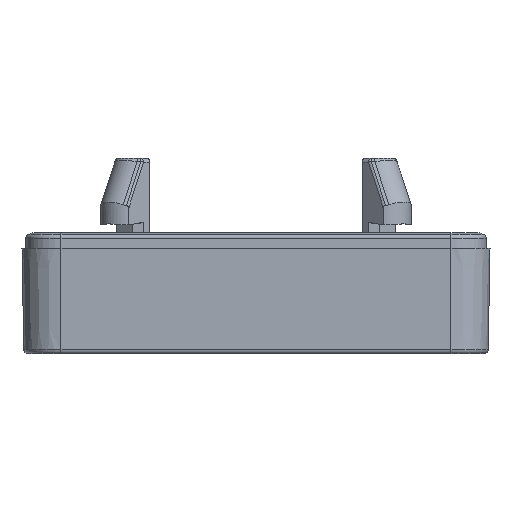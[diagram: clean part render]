
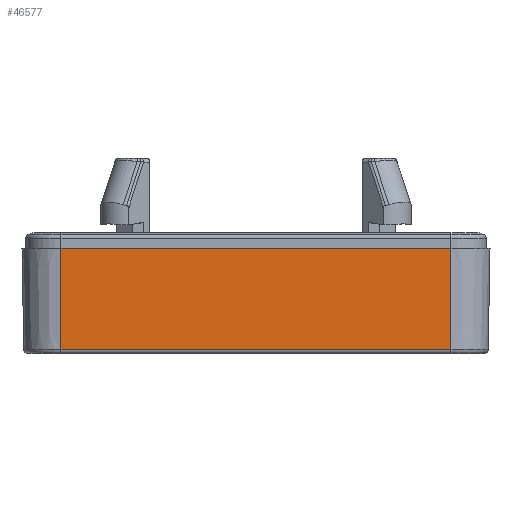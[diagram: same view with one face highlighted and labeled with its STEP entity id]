
A CAD part, left-side view. The second image highlights one B-rep face of the part: STEP entity #46577.
In plain terms, the highlighted planar face has unit normal (-1, 0, -0.018).
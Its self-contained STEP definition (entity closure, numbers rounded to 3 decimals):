
#495=PLANE('',#49752);
#4578=FACE_OUTER_BOUND('',#7430,.T.);
#7430=EDGE_LOOP('',(#36453,#36454,#36455,#36456));
#12465=LINE('',#77349,#16802);
#12466=LINE('',#77351,#16803);
#12467=LINE('',#77353,#16804);
#12468=LINE('',#77354,#16805);
#16802=VECTOR('',#56571,10.);
#16803=VECTOR('',#56572,10.);
#16804=VECTOR('',#56573,10.);
#16805=VECTOR('',#56574,10.);
#21757=VERTEX_POINT('',#77347);
#21758=VERTEX_POINT('',#77348);
#21759=VERTEX_POINT('',#77350);
#21760=VERTEX_POINT('',#77352);
#27144=EDGE_CURVE('',#21757,#21758,#12465,.T.);
#27145=EDGE_CURVE('',#21759,#21757,#12466,.T.);
#27146=EDGE_CURVE('',#21760,#21759,#12467,.T.);
#27147=EDGE_CURVE('',#21760,#21758,#12468,.T.);
#36453=ORIENTED_EDGE('',*,*,#27144,.F.);
#36454=ORIENTED_EDGE('',*,*,#27145,.F.);
#36455=ORIENTED_EDGE('',*,*,#27146,.F.);
#36456=ORIENTED_EDGE('',*,*,#27147,.T.);
#46577=ADVANCED_FACE('',(#4578),#495,.F.);
#49752=AXIS2_PLACEMENT_3D('',#77346,#56569,#56570);
#56569=DIRECTION('center_axis',(1.,0.,
0.017));
#56570=DIRECTION('ref_axis',(0.017,0.,-1.));
#56571=DIRECTION('',(0.,1.,0.));
#56572=DIRECTION('',(0.017,0.,-1.));
#56573=DIRECTION('',(0.,-1.,0.));
#56574=DIRECTION('',(0.017,0.,-1.));
#77346=CARTESIAN_POINT('Origin',(-74.,25.,0.));
#77347=CARTESIAN_POINT('',(-73.773,-25.,-13.009));
#77348=CARTESIAN_POINT('',(-73.773,25.,-13.009));
#77349=CARTESIAN_POINT('',(-73.773,19.916,-13.009));
#77350=CARTESIAN_POINT('',(-74.,-25.,0.));
#77351=CARTESIAN_POINT('',(-73.764,-25.,-13.5));
#77352=CARTESIAN_POINT('',(-74.,25.,0.));
#77353=CARTESIAN_POINT('',(-74.,0.,0.));
#77354=CARTESIAN_POINT('',(-73.764,25.,-13.5));
